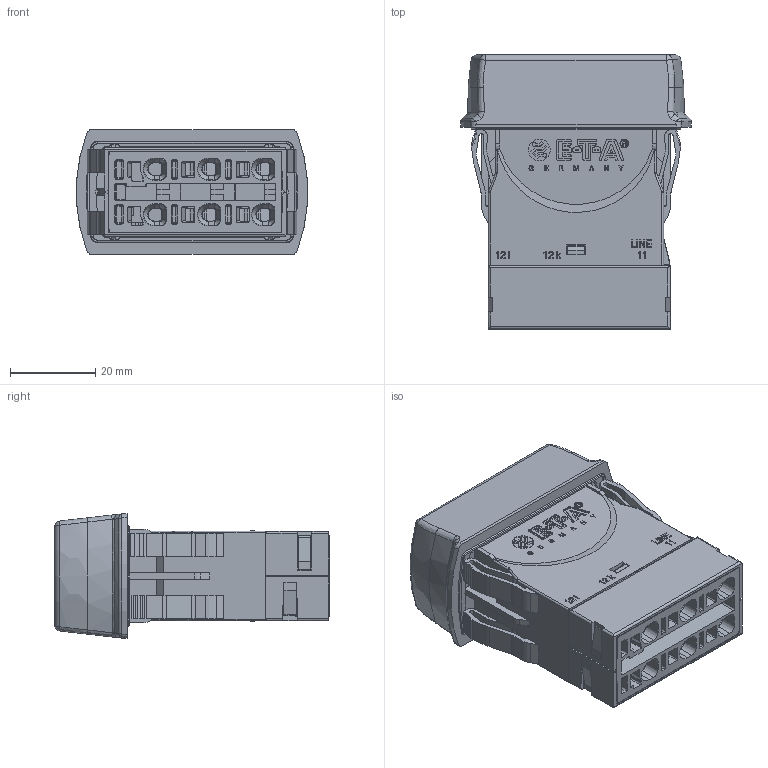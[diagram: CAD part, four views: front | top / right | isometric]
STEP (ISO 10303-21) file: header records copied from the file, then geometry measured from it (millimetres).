
FILE_DESCRIPTION((''),'2;1');
FILE_NAME('DUMMY-3120-N52V-PT','2019-08-07T09:58:07',('wschmidt'),(''),'CREO PARAMETRIC BY PTC INC, 2017260','CREO PARAMETRIC BY PTC INC, 2017260','');
FILE_SCHEMA(('AUTOMOTIVE_DESIGN { 1 0 10303 214 1 1 1 1 }'));
Products named in the file (1): DUMMY-3120-N52V-PT
Bounding box: 54 x 64.3 x 29.2 mm (x, y, z)
Volume: 47515.4 mm3; surface area: 33335.8 mm2
Topology: 1 solids, 14 shells, 3846 faces, 10384 edges, 6644 vertices
Faces by surface type: plane 1875, extrusion 834, cylinder 618, bspline 301, cone 77, sphere 74, torus 67
Entity records: 144140 total; most frequent: CARTESIAN_POINT 52725, ORIENTED_EDGE 20760, DIRECTION 14972, EDGE_CURVE 10380, VECTOR 7280, VERTEX_POINT 6644, LINE 6446, EDGE_LOOP 4070
